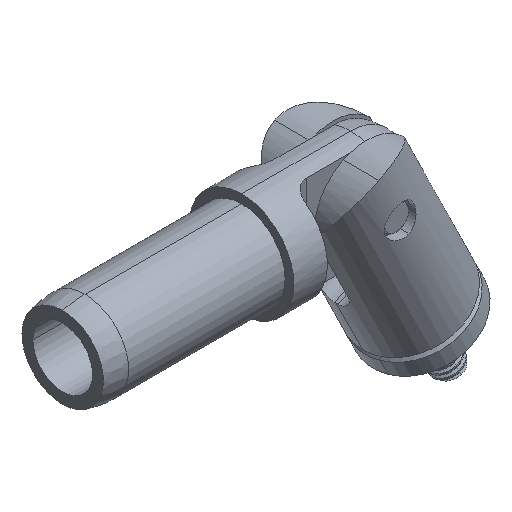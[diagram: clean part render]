
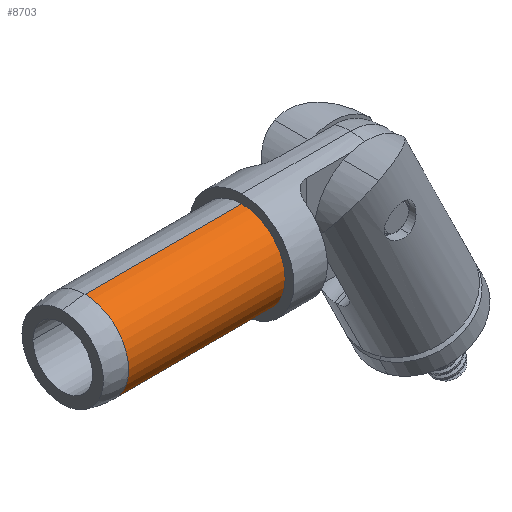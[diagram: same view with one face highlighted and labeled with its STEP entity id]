
A CAD part, isometric view. The second image highlights one B-rep face of the part: STEP entity #8703.
In plain terms, the highlighted cylindrical face has radius 9.271 mm (diameter 18.542 mm), a partial arc.
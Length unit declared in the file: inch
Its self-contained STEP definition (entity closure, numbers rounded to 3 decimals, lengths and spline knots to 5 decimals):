
#846 = ORIENTED_EDGE ( 'NONE', *, *, #5385, .F. ) ;
#1160 = VECTOR ( 'NONE', #14472, 39.37008 ) ;
#2232 = CARTESIAN_POINT ( 'NONE',  ( -1.59938, 1.92411, 2.53434 ) ) ;
#2933 = CYLINDRICAL_SURFACE ( 'NONE', #13144, 0.365 ) ;
#3344 = CIRCLE ( 'NONE', #16340, 0.365 ) ;
#4262 = EDGE_CURVE ( 'NONE', #27176, #16964, #24326, .T. ) ;
#5385 = EDGE_CURVE ( 'NONE', #16964, #11292, #7939, .T. ) ;
#5726 = FACE_OUTER_BOUND ( 'NONE', #18734, .T. ) ;
#5857 = CARTESIAN_POINT ( 'NONE',  ( -0.09938, 1.92411, 2.16934 ) ) ;
#6715 = CARTESIAN_POINT ( 'NONE',  ( -1.41188, 1.92411, 2.16934 ) ) ;
#7939 = CIRCLE ( 'NONE', #12157, 0.365 ) ;
#8703 = ADVANCED_FACE ( 'NONE', ( #5726 ), #2933, .T. ) ;
#8766 = CARTESIAN_POINT ( 'NONE',  ( -1.59938, 1.92411, 2.89934 ) ) ;
#8977 = ORIENTED_EDGE ( 'NONE', *, *, #22914, .T. ) ;
#9246 = CARTESIAN_POINT ( 'NONE',  ( -1.41188, 1.92411, 2.89934 ) ) ;
#11292 = VERTEX_POINT ( 'NONE', #9246 ) ;
#11555 = CARTESIAN_POINT ( 'NONE',  ( -0.09938, 1.92411, 2.53434 ) ) ;
#12157 = AXIS2_PLACEMENT_3D ( 'NONE', #12710, #27761, #14906 ) ;
#12710 = CARTESIAN_POINT ( 'NONE',  ( -1.41188, 1.92411, 2.53434 ) ) ;
#13144 = AXIS2_PLACEMENT_3D ( 'NONE', #2232, #23864, #17566 ) ;
#13762 = DIRECTION ( 'NONE',  ( 0., 0., 1. ) ) ;
#14210 = EDGE_CURVE ( 'NONE', #17423, #11292, #22165, .T. ) ;
#14224 = ORIENTED_EDGE ( 'NONE', *, *, #4262, .F. ) ;
#14472 = DIRECTION ( 'NONE',  ( -1., 0., 0. ) ) ;
#14906 = DIRECTION ( 'NONE',  ( 0., 0., 1. ) ) ;
#15567 = ORIENTED_EDGE ( 'NONE', *, *, #14210, .T. ) ;
#16340 = AXIS2_PLACEMENT_3D ( 'NONE', #11555, #26653, #13762 ) ;
#16964 = VERTEX_POINT ( 'NONE', #6715 ) ;
#17423 = VERTEX_POINT ( 'NONE', #19510 ) ;
#17566 = DIRECTION ( 'NONE',  ( 0., 0., 1. ) ) ;
#18734 = EDGE_LOOP ( 'NONE', ( #14224, #8977, #15567, #846 ) ) ;
#19510 = CARTESIAN_POINT ( 'NONE',  ( -0.09938, 1.92411, 2.89934 ) ) ;
#21784 = DIRECTION ( 'NONE',  ( -1., 0., 0. ) ) ;
#22165 = LINE ( 'NONE', #8766, #27189 ) ;
#22914 = EDGE_CURVE ( 'NONE', #27176, #17423, #3344, .T. ) ;
#23864 = DIRECTION ( 'NONE',  ( -1., 0., 0. ) ) ;
#24326 = LINE ( 'NONE', #27354, #1160 ) ;
#26653 = DIRECTION ( 'NONE',  ( -1., 0., 0. ) ) ;
#27176 = VERTEX_POINT ( 'NONE', #5857 ) ;
#27189 = VECTOR ( 'NONE', #21784, 39.37008 ) ;
#27354 = CARTESIAN_POINT ( 'NONE',  ( -1.59938, 1.92411, 2.16934 ) ) ;
#27761 = DIRECTION ( 'NONE',  ( -1., 0., 0. ) ) ;
